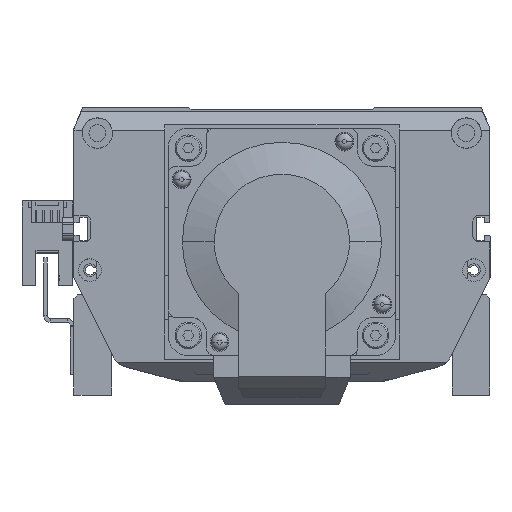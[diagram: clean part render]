
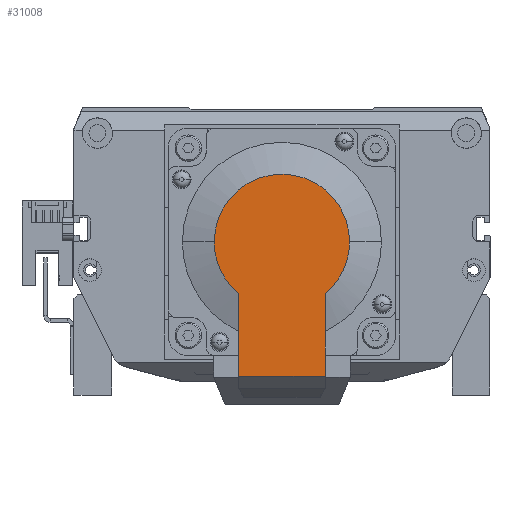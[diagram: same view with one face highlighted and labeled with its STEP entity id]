
A CAD part, front view. The second image highlights one B-rep face of the part: STEP entity #31008.
In plain terms, the highlighted planar face has unit normal (0, -1, 0) as drawn and (0, 1, 0) by its records, which use the part's own axes.
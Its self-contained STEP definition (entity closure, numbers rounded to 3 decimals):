
#638 = ORIENTED_EDGE ( 'NONE', *, *, #23893, .T. ) ;
#2790 = DIRECTION ( 'NONE',  ( 0., 0., -1. ) ) ;
#3088 = EDGE_LOOP ( 'NONE', ( #10787, #23880, #31500, #638, #10747, #35009 ) ) ;
#4535 = EDGE_CURVE ( 'NONE', #28208, #26534, #13936, .T. ) ;
#4571 = VECTOR ( 'NONE', #29411, 1000. ) ;
#4989 = VECTOR ( 'NONE', #22819, 1000. ) ;
#5529 = CARTESIAN_POINT ( 'NONE',  ( 0., 98.5, 0. ) ) ;
#6369 = VECTOR ( 'NONE', #29013, 1000. ) ;
#7637 = LINE ( 'NONE', #34447, #4989 ) ;
#8493 = DIRECTION ( 'NONE',  ( 0., 0., -1. ) ) ;
#8572 = CARTESIAN_POINT ( 'NONE',  ( 0., 98.5, 0. ) ) ;
#10504 = DIRECTION ( 'NONE',  ( 0., 0., -1. ) ) ;
#10600 = DIRECTION ( 'NONE',  ( 0., 0., -1. ) ) ;
#10615 = VERTEX_POINT ( 'NONE', #22419 ) ;
#10747 = ORIENTED_EDGE ( 'NONE', *, *, #23379, .F. ) ;
#10787 = ORIENTED_EDGE ( 'NONE', *, *, #28475, .F. ) ;
#13227 = DIRECTION ( 'NONE',  ( 0., -1., 0. ) ) ;
#13936 = LINE ( 'NONE', #17621, #6369 ) ;
#17272 = DIRECTION ( 'NONE',  ( 0., -1., 0. ) ) ;
#17621 = CARTESIAN_POINT ( 'NONE',  ( 0., 98.5, 11.45 ) ) ;
#19322 = CARTESIAN_POINT ( 'NONE',  ( 35.5, 98.5, -11.45 ) ) ;
#20347 = AXIS2_PLACEMENT_3D ( 'NONE', #5529, #17272, #8493 ) ;
#22055 = CARTESIAN_POINT ( 'NONE',  ( 13.735, 98.5, -11.45 ) ) ;
#22419 = CARTESIAN_POINT ( 'NONE',  ( 0., 98.5, -17.881 ) ) ;
#22819 = DIRECTION ( 'NONE',  ( -1., 0., 0. ) ) ;
#23379 = EDGE_CURVE ( 'NONE', #10615, #24860, #26827, .T. ) ;
#23660 = EDGE_CURVE ( 'NONE', #33552, #28208, #31323, .T. ) ;
#23776 = AXIS2_PLACEMENT_3D ( 'NONE', #8572, #28481, #2790 ) ;
#23880 = ORIENTED_EDGE ( 'NONE', *, *, #4535, .F. ) ;
#23893 = EDGE_CURVE ( 'NONE', #33552, #24860, #7637, .T. ) ;
#24860 = VERTEX_POINT ( 'NONE', #22055 ) ;
#24893 = CARTESIAN_POINT ( 'NONE',  ( 35.5, 98.5, 11.45 ) ) ;
#25067 = PLANE ( 'NONE',  #34847 ) ;
#25095 = CARTESIAN_POINT ( 'NONE',  ( 13.735, 98.5, 11.45 ) ) ;
#26030 = CARTESIAN_POINT ( 'NONE',  ( 0., 98.5, 17.881 ) ) ;
#26534 = VERTEX_POINT ( 'NONE', #25095 ) ;
#26827 = CIRCLE ( 'NONE', #23776, 17.881 ) ;
#27581 = DIRECTION ( 'NONE',  ( 0., -1., 0. ) ) ;
#27827 = CARTESIAN_POINT ( 'NONE',  ( 0., 98.5, 0. ) ) ;
#28208 = VERTEX_POINT ( 'NONE', #24893 ) ;
#28475 = EDGE_CURVE ( 'NONE', #26534, #28680, #32895, .T. ) ;
#28481 = DIRECTION ( 'NONE',  ( 0., -1., 0. ) ) ;
#28680 = VERTEX_POINT ( 'NONE', #26030 ) ;
#29013 = DIRECTION ( 'NONE',  ( -1., 0., 0. ) ) ;
#29176 = CARTESIAN_POINT ( 'NONE',  ( 35.5, 98.5, 0. ) ) ;
#29411 = DIRECTION ( 'NONE',  ( 0., 0., 1. ) ) ;
#29516 = EDGE_CURVE ( 'NONE', #28680, #10615, #36555, .T. ) ;
#31008 = ADVANCED_FACE ( 'NONE', ( #33173 ), #25067, .F. ) ;
#31323 = LINE ( 'NONE', #29176, #4571 ) ;
#31500 = ORIENTED_EDGE ( 'NONE', *, *, #23660, .F. ) ;
#31587 = AXIS2_PLACEMENT_3D ( 'NONE', #27827, #27581, #10504 ) ;
#32895 = CIRCLE ( 'NONE', #20347, 17.881 ) ;
#33173 = FACE_OUTER_BOUND ( 'NONE', #3088, .T. ) ;
#33552 = VERTEX_POINT ( 'NONE', #19322 ) ;
#34447 = CARTESIAN_POINT ( 'NONE',  ( 0., 98.5, -11.45 ) ) ;
#34847 = AXIS2_PLACEMENT_3D ( 'NONE', #36491, #13227, #10600 ) ;
#35009 = ORIENTED_EDGE ( 'NONE', *, *, #29516, .F. ) ;
#36491 = CARTESIAN_POINT ( 'NONE',  ( 0., 98.5, 0. ) ) ;
#36555 = CIRCLE ( 'NONE', #31587, 17.881 ) ;
